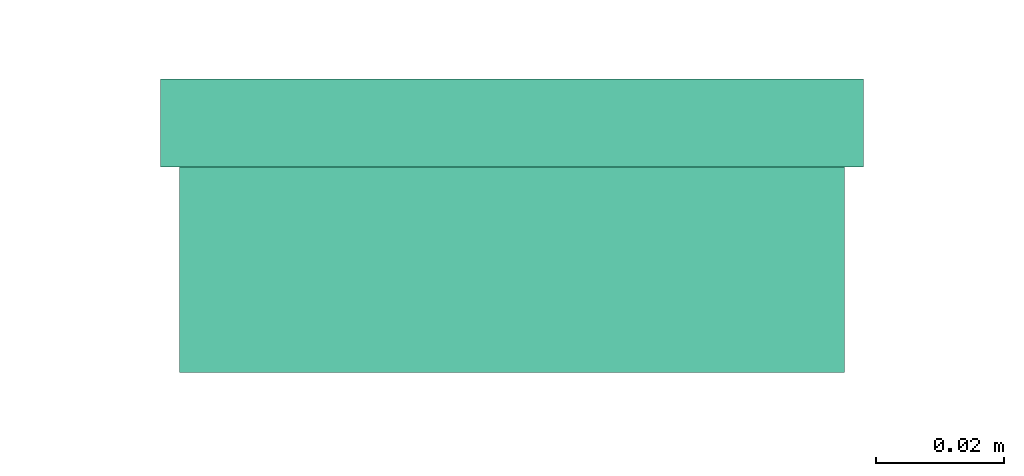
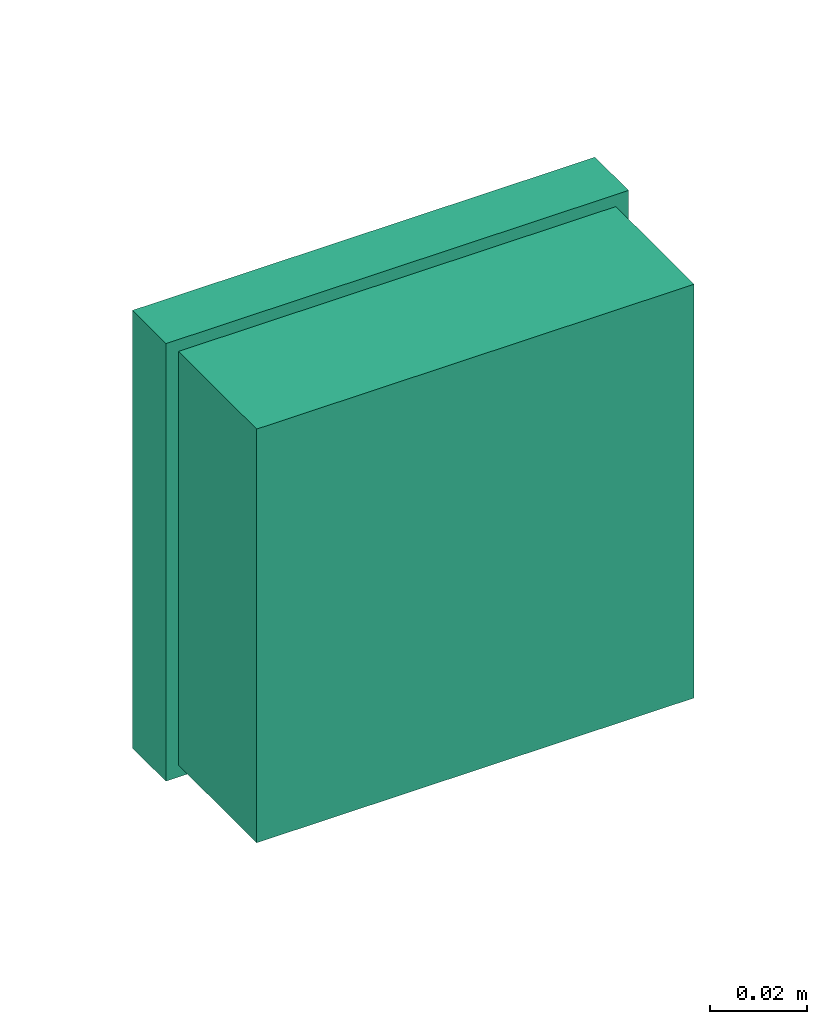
# One storey, part 5 of 14: 1 flow fitting.
"""IFC2X3 building model written with IfcOpenShell, lengths in millimetres."""

import ifcopenshell
import ifcopenshell.guid

model = None  # the IFC model being written
_history = None  # IfcOwnerHistory: only IFC2X3 demands one
_inside = {}  # id of a spatial element -> (the spatial element, [elements in it])
_under = {}  # id of a project, library or spatial element -> (it, [spatial elements below it])
_declared = {}  # id of a project -> (the project, [libraries it declares])
_typed = {}  # id of a type object -> (the type object, [elements of that type])
_made_of = {}  # id of a material, layer set ... -> (it, [elements and type objects made of it])


def new_model(schema):
    """Start an empty IFC model of exactly this schema.

    Asked for "IFC4X3", IfcOpenShell would pick the latest addendum, in which some entities
    have other attributes; the version numbers below select the first issue.
    IFC2X3 requires an IfcOwnerHistory on every rooted entity: one is made here for all.
    """
    global model, _history
    if schema == "IFC4X3":
        model = ifcopenshell.file(schema_version=(4, 3, 0, 0))
    else:
        model = ifcopenshell.file(schema=schema)
    _inside.clear()
    _under.clear()
    _declared.clear()
    _typed.clear()
    _made_of.clear()
    _history = None
    if model.schema == "IFC2X3":
        org = make("IfcOrganization", Name="unknown")
        user = make(
            "IfcPersonAndOrganization",
            ThePerson=make("IfcPerson", FamilyName="unknown"),
            TheOrganization=org,
        )
        app = make(
            "IfcApplication",
            ApplicationDeveloper=org,
            Version="unknown",
            ApplicationFullName="unknown",
            ApplicationIdentifier="unknown",
        )
        _history = make(
            "IfcOwnerHistory",
            OwningUser=user,
            OwningApplication=app,
            ChangeAction="ADDED",
            CreationDate=0,
        )
    return model


def make(cls, **values):
    """One entity of the class cls with the attributes given. An attribute that is None is left unset."""
    return model.create_entity(
        cls, **{name: value for name, value in values.items() if value is not None}
    )


def entity(cls, *values):
    """Any entity or typed value of the class cls, its attributes in the order of the schema. None: left unset."""
    e = model.create_entity(cls)
    for i, value in enumerate(values):
        if value is not None:
            e[i] = value
    return e


def rooted(cls, **values):
    """An entity with a GlobalId (a new one), such as an element, a storey or a relation."""
    return make(cls, GlobalId=ifcopenshell.guid.new(), OwnerHistory=_history, **values)


def si_unit(unit_type, name, prefix=None):
    """IfcSIUnit, for example si_unit("LENGTHUNIT", "METRE", prefix="MILLI")."""
    return make("IfcSIUnit", UnitType=unit_type, Prefix=prefix, Name=name)


def converted_unit(unit_type, name, factor, base, dimensions=None, offset=None):
    """IfcConversionBasedUnit, such as the inch: factor (a typed value) times the base unit."""
    return make(
        "IfcConversionBasedUnit"
        if offset is None
        else "IfcConversionBasedUnitWithOffset",
        ConversionOffset=offset,
        Dimensions=None
        if dimensions is None
        else entity("IfcDimensionalExponents", *dimensions),
        UnitType=unit_type,
        Name=name,
        ConversionFactor=make(
            "IfcMeasureWithUnit", ValueComponent=factor, UnitComponent=base
        ),
    )


def derived_unit(unit_type, elements):
    """IfcDerivedUnit: a product of units, each with its exponent."""
    return make(
        "IfcDerivedUnit",
        Elements=[
            make("IfcDerivedUnitElement", Unit=unit, Exponent=power)
            for unit, power in elements
        ],
        UnitType=unit_type,
    )


def assignment(units):
    """IfcUnitAssignment: the units of a project."""
    return None if units is None else make("IfcUnitAssignment", Units=units)


def point(xyz):
    """IfcCartesianPoint."""
    return None if xyz is None else make("IfcCartesianPoint", Coordinates=xyz)


def direction(xyz):
    """IfcDirection."""
    return None if xyz is None else make("IfcDirection", DirectionRatios=xyz)


def frame(location, z_axis=None, x_axis=None):
    """IfcAxis2Placement3D, a coordinate frame: its origin and axes. An axis left out is left unset."""
    return make(
        "IfcAxis2Placement3D",
        Location=point(location),
        Axis=direction(z_axis),
        RefDirection=direction(x_axis),
    )


def origin_with_axes():
    """The frame at (0, 0, 0) with the z axis (0, 0, 1) and the x axis (1, 0, 0) written out."""
    return frame((0.0, 0.0, 0.0), z_axis=(0.0, 0.0, 1.0), x_axis=(1.0, 0.0, 0.0))


def place(relative_to, where):
    """IfcLocalPlacement: puts the frame where relative to a parent placement (None: the world)."""
    return make(
        "IfcLocalPlacement", PlacementRelTo=relative_to, RelativePlacement=where
    )


def context(
    kind, dimensions, precision=None, world=None, true_north=None, identifier=None
):
    """IfcGeometricRepresentationContext, for example the 3D "Model" context."""
    return make(
        "IfcGeometricRepresentationContext",
        ContextIdentifier=identifier,
        ContextType=kind,
        CoordinateSpaceDimension=dimensions,
        Precision=precision,
        WorldCoordinateSystem=world,
        TrueNorth=true_north,
    )


def subcontext(parent, identifier, kind, view, scale=None):
    """IfcGeometricRepresentationSubContext, for example "Body" below "Model"."""
    return make(
        "IfcGeometricRepresentationSubContext",
        ContextIdentifier=identifier,
        ContextType=kind,
        ParentContext=parent,
        TargetScale=scale,
        TargetView=view,
    )


def project(units=None, contexts=None):
    """IfcProject with its units and contexts."""
    return rooted(
        "IfcProject",
        Name="project",
        RepresentationContexts=contexts,
        UnitsInContext=assignment(units),
    )


def spatial(cls, under=None, at=None, **own):
    """A site, building, storey or space (cls), placed at a placement, below another one or the project."""
    s = rooted(cls, ObjectPlacement=at, **own)
    if under is not None:
        _under.setdefault(under.id(), (under, []))[1].append(s)
    return s


def faces_of(points, faces, orient=None, outer=None):
    """IfcFace entities. A face is a list of loops; a loop is a list of indices into points, from 0.

    orient and outer hold one flag for each loop. By default every Orientation is true, the
    first loop of a face is its IfcFaceOuterBound and the others are IfcFaceBound.
    """
    made = []
    for i, loops in enumerate(faces):
        bounds = []
        for j, loop in enumerate(loops):
            is_outer = j == 0 if outer is None else outer[i][j]
            bounds.append(
                make(
                    "IfcFaceOuterBound" if is_outer else "IfcFaceBound",
                    Bound=make("IfcPolyLoop", Polygon=[points[k] for k in loop]),
                    Orientation=True if orient is None else orient[i][j],
                )
            )
        made.append(make("IfcFace", Bounds=bounds))
    return made


def open_shell(faces, orient=None, outer=None):
    """The faces of one IfcOpenShell. surface_model builds it on its shared points."""
    return ("IfcOpenShell", faces, orient, outer)


def surface_model(cls, points, shells):
    """IfcFaceBasedSurfaceModel or IfcShellBasedSurfaceModel (cls): surfaces that need not close."""
    shared = [point(p) for p in points]
    made = [make(c, CfsFaces=faces_of(shared, fs, o, b)) for c, fs, o, b in shells]
    if cls == "IfcFaceBasedSurfaceModel":
        return make(cls, FbsmFaces=made)
    return make(cls, SbsmBoundary=made)


def shape(context_of_items, identifier, shape_type, items):
    """IfcShapeRepresentation: the items that make up one representation, for example the "Body"."""
    return make(
        "IfcShapeRepresentation",
        ContextOfItems=context_of_items,
        RepresentationIdentifier=identifier,
        RepresentationType=shape_type,
        Items=items,
    )


def source(mapping_origin, context_of_items, identifier, shape_type, items):
    """IfcRepresentationMap: a shape defined once, which mapped items show again and again."""
    return make(
        "IfcRepresentationMap",
        MappingOrigin=mapping_origin,
        MappedRepresentation=shape(context_of_items, identifier, shape_type, items),
    )


def transform(
    local_origin,
    x_axis=None,
    y_axis=None,
    z_axis=None,
    scale=None,
    scale2=None,
    scale3=None,
    uniform=True,
):
    """IfcCartesianTransformationOperator3D, or its non-uniform kind. x_axis, y_axis, z_axis: its Axis1, 2, 3."""
    if uniform:
        return make(
            "IfcCartesianTransformationOperator3D",
            Axis1=direction(x_axis),
            Axis2=direction(y_axis),
            LocalOrigin=point(local_origin),
            Scale=scale,
            Axis3=direction(z_axis),
        )
    return make(
        "IfcCartesianTransformationOperator3DnonUniform",
        Axis1=direction(x_axis),
        Axis2=direction(y_axis),
        LocalOrigin=point(local_origin),
        Scale=scale,
        Axis3=direction(z_axis),
        Scale2=scale2,
        Scale3=scale3,
    )


def mapped(mapping_source, mapping_target):
    """IfcMappedItem: shows the shape of a source again, moved by a transform."""
    return make(
        "IfcMappedItem", MappingSource=mapping_source, MappingTarget=mapping_target
    )


def made_of(thing, what):
    """Note that an element or type object is made of a material, layer set ...; save() writes the relation."""
    if what is not None:
        _made_of.setdefault(what.id(), (what, []))[1].append(thing)
    return thing


def type_object(cls, material=None, **own):
    """A type object (cls), such as IfcWallType, which elements share."""
    return made_of(rooted(cls, **own), material)


def element(
    cls,
    number,
    at=None,
    inside=None,
    cuts=None,
    type_object=None,
    material=None,
    context=None,
    identifier="Body",
    shape_type=None,
    held_by="IfcProductDefinitionShape",
    body=None,
    shapes=None,
    **own,
):
    """One element of the class cls, such as IfcWall. Its Tag is "e" and its number.

    at: its placement. inside: the storey or other place that contains it. cuts: it is an
    opening in that element (IfcRelVoidsElement). A single representation is given by context,
    identifier, shape_type and body (its items); several are given by shapes. held_by: the class
    of the entity that holds the representations. save() writes the other relations.
    """
    e = rooted(cls, Tag="e%d" % number, ObjectPlacement=at, **own)
    if body is not None:
        shapes = [shape(context, identifier, shape_type, body)]
    if shapes is not None:
        e.Representation = make(held_by, Representations=shapes)
    if inside is not None:
        _inside.setdefault(inside.id(), (inside, []))[1].append(e)
    if cuts is not None:
        rooted(
            "IfcRelVoidsElement", RelatingBuildingElement=cuts, RelatedOpeningElement=e
        )
    if type_object is not None:
        _typed.setdefault(type_object.id(), (type_object, []))[1].append(e)
    return made_of(e, material)


def aggregate(whole, parts):
    """IfcRelAggregates: a whole, such as a stair, and the parts it consists of."""
    return rooted("IfcRelAggregates", RelatingObject=whole, RelatedObjects=parts)


def save(model, path):
    """Write the relations noted so far, then the file.

    IfcRelAggregates (storeys below a building ...), IfcRelContainedInSpatialStructure (elements
    in a storey), IfcRelDefinesByType, IfcRelAssociatesMaterial and IfcRelDeclares: one each for
    every whole, place, type object, material and project.
    """
    for whole, parts in _under.values():
        aggregate(whole, parts)
    for where, things in _inside.values():
        rooted(
            "IfcRelContainedInSpatialStructure",
            RelatedElements=things,
            RelatingStructure=where,
        )
    for kind, things in _typed.values():
        rooted("IfcRelDefinesByType", RelatedObjects=things, RelatingType=kind)
    for what, things in _made_of.values():
        rooted("IfcRelAssociatesMaterial", RelatedObjects=things, RelatingMaterial=what)
    for by, libraries in _declared.values():
        rooted("IfcRelDeclares", RelatingContext=by, RelatedDefinitions=libraries)
    model.write(path)


model = new_model("IFC2X3")

# Units and contexts
model_context = context("Model", 3, precision=0.01, world=frame((0.0, 4.29681676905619e-09, 0.0)), true_north=direction((4.01073788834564e-13, 1.0)))
plan_context = context("Plan", 3, precision=0.01, world=frame((0.0, 4.29681676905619e-09, 0.0)), true_north=direction((4.01073788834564e-13, 1.0)))
body_context = subcontext(model_context, "Body", "Model", "MODEL_VIEW")
ifc_project = project(units=[converted_unit("PLANEANGLEUNIT", "DEGREE", entity("IfcPositiveLengthMeasure", 0.0174532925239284), si_unit("PLANEANGLEUNIT", "RADIAN"), dimensions=[0, 0, 0, 0, 0, 0, 0]), si_unit("AREAUNIT", "SQUARE_METRE"), si_unit("LENGTHUNIT", "METRE", prefix="MILLI"), si_unit("MASSUNIT", "GRAM", prefix="KILO"), si_unit("POWERUNIT", "WATT"), si_unit("PRESSUREUNIT", "PASCAL"), si_unit("FORCEUNIT", "NEWTON", prefix="KILO"), si_unit("ELECTRICVOLTAGEUNIT", "VOLT"), si_unit("ELECTRICCURRENTUNIT", "AMPERE"), si_unit("THERMODYNAMICTEMPERATUREUNIT", "DEGREE_CELSIUS"), si_unit("TIMEUNIT", "SECOND"), si_unit("VOLUMEUNIT", "CUBIC_METRE"), derived_unit("LINEARVELOCITYUNIT", [(si_unit("LENGTHUNIT", "METRE"), 1), (si_unit("TIMEUNIT", "SECOND"), -1)]), derived_unit("VOLUMETRICFLOWRATEUNIT", [(si_unit("VOLUMEUNIT", "CUBIC_METRE"), 1), (si_unit("TIMEUNIT", "SECOND"), -1)]), derived_unit("THERMALTRANSMITTANCEUNIT", [(si_unit("POWERUNIT", "WATT"), 1), (si_unit("THERMODYNAMICTEMPERATUREUNIT", "KELVIN"), -1), (si_unit("AREAUNIT", "SQUARE_METRE"), -1)]), derived_unit("SOUNDPRESSUREUNIT", [(si_unit("PRESSUREUNIT", "PASCAL"), 1)])], contexts=[model_context, plan_context])

# Site, building, storey
site_placement = place(None, frame((0.0, -4.29681676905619e-09, 0.0), z_axis=(0.0, 0.0, 1.0), x_axis=(1.0, 0.0, 0.0)))
site = spatial("IfcSite", under=ifc_project, at=site_placement, Name="ENGM", CompositionType="ELEMENT")
building_placement = place(site_placement, frame((0.0, 4.29681676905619e-09, 0.0), z_axis=(0.0, 0.0, 1.0), x_axis=(1.0, 0.0, 0.0)))
building = spatial("IfcBuilding", under=site, at=building_placement, Name="TH", CompositionType="ELEMENT")
storey_placement = place(building_placement, frame((0.0, 0.0, 205200.0), z_axis=(0.0, 0.0, 1.0), x_axis=(1.0, 0.0, 0.0)))
storey = spatial("IfcBuildingStorey", under=building, at=storey_placement, Name="Nivå D + 1,2 m", CompositionType="ELEMENT", Elevation=205200.0)

# Flow fitting
junction_box_type = type_object("IfcJunctionBoxType", Name="Koblingsboks åpen", PredefinedType="NOTDEFINED")
shared_shape = source(origin_with_axes(), body_context, "Body", "SurfaceModel", [
    surface_model("IfcShellBasedSurfaceModel", [(-55.0, 46.0, 55.0), (-55.0, 32.2, 55.0), (55.0, 32.2, 55.0), (55.0, 46.0, 55.0), (55.0, 46.0, -55.0), (55.0, 32.2, -55.0), (-55.0, 32.2, -55.0), (-55.0, 46.0, -55.0), (-52.0, 32.2, 52.0), (-52.0, 0.0, 52.0), (52.0, 0.0, 52.0), (52.0, 32.2, 52.0), (52.0, 32.2, -52.0), (52.0, 0.0, -52.0), (-52.0, 0.0, -52.0), (-52.0, 32.2, -52.0)], [open_shell([[[0, 1, 2]], [[2, 3, 0]], [[4, 5, 6]], [[6, 7, 4]], [[2, 1, 6]], [[6, 5, 2]], [[3, 2, 5]], [[5, 4, 3]], [[0, 3, 4]], [[4, 7, 0]], [[1, 0, 7]], [[7, 6, 1]], [[8, 9, 10]], [[10, 11, 8]], [[12, 13, 14]], [[14, 15, 12]], [[10, 9, 14]], [[14, 13, 10]], [[11, 10, 13]], [[13, 12, 11]], [[8, 11, 12]], [[12, 15, 8]], [[9, 8, 15]], [[15, 14, 9]]])]),
])
flow_fitting_placement = place(storey_placement, frame((904510.0, 480620.7, 4800.0), z_axis=(0.0, 0.0, 1.0), x_axis=(1.0, 0.0, 0.0)))
element("IfcFlowFitting", 1, at=flow_fitting_placement, inside=storey, type_object=junction_box_type, Name="Koblingsboks åpen", context=body_context, shape_type="MappedRepresentation", body=[
    mapped(shared_shape, transform((0.0, 0.0, 0.0), scale=1.0)),
])

save(model, "model.ifc")
